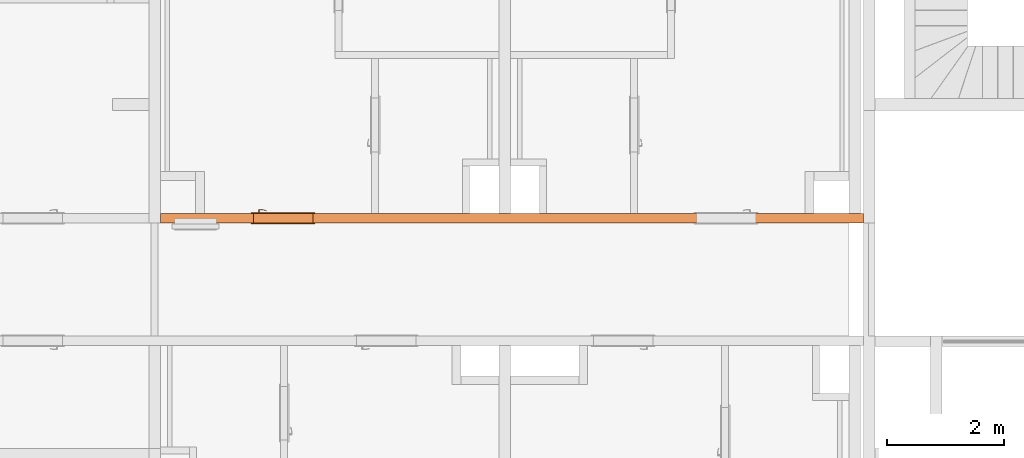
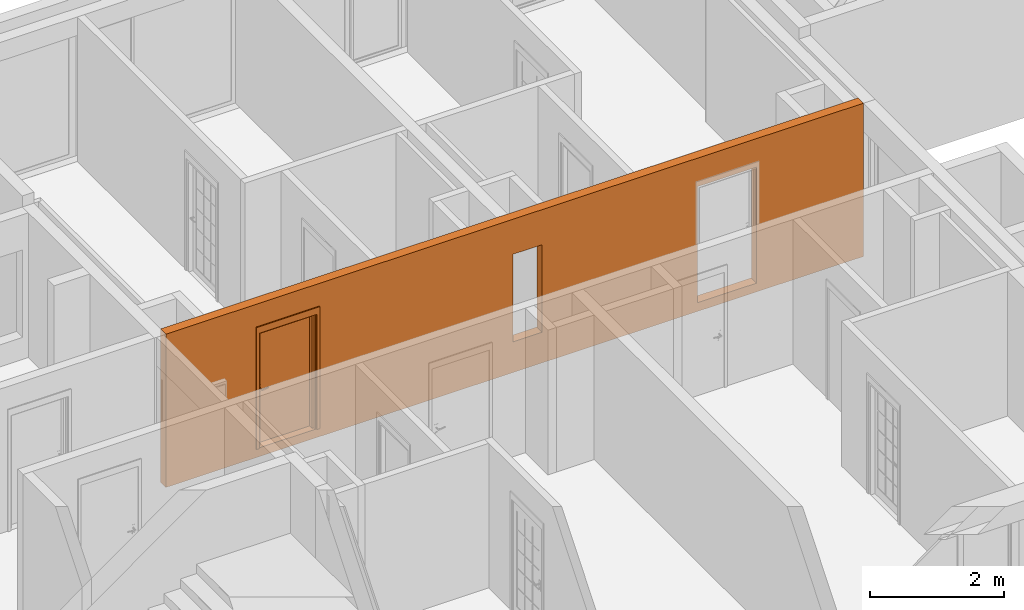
# One storey, part 26 of 61: 2 proxies, 3 openings.
"""IFC2X3 building model written with IfcOpenShell, lengths in millimetres."""

from ifc_helpers import new_model, entity, si_unit, converted_unit, derived_unit, money_unit, direction, frame, origin_with_axes, origin_2d_with_axis, place, context, subcontext, project, spatial, rectangle, extrude, open_shell, faceted_brep, surface_model, source, transform, mapped, material, type_object, element, fill, save


model = new_model("IFC2X3")

# Units and contexts
model_context = context("Model", 3, precision=0.01, world=origin_with_axes(), true_north=direction((0.34421633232, 0.938890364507)))
body_context = subcontext(model_context, "Body", "Model", "MODEL_VIEW")
ifc_project = project(units=[si_unit("LENGTHUNIT", "METRE", prefix="MILLI"), si_unit("AREAUNIT", "SQUARE_METRE"), si_unit("VOLUMEUNIT", "CUBIC_METRE"), converted_unit("PLANEANGLEUNIT", "DEGREE", entity("IfcPlaneAngleMeasure", 0.0174532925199), si_unit("PLANEANGLEUNIT", "RADIAN"), dimensions=[0, 0, 0, 0, 0, 0, 0]), si_unit("SOLIDANGLEUNIT", "STERADIAN"), money_unit("USD"), converted_unit("TIMEUNIT", "Year", entity("IfcTimeMeasure", 31556926.0), si_unit("TIMEUNIT", "SECOND"), dimensions=[0, 0, 1, 0, 0, 0, 0]), si_unit("MASSUNIT", "GRAM", prefix="KILO"), si_unit("THERMODYNAMICTEMPERATUREUNIT", "DEGREE_CELSIUS"), si_unit("LUMINOUSINTENSITYUNIT", "LUMEN"), si_unit("ENERGYUNIT", "JOULE", prefix="MEGA"), derived_unit("THERMALCONDUCTANCEUNIT", [(si_unit("POWERUNIT", "WATT"), 1), (si_unit("LENGTHUNIT", "METRE"), -1), (si_unit("THERMODYNAMICTEMPERATUREUNIT", "KELVIN"), -1)]), derived_unit("SPECIFICHEATCAPACITYUNIT", [(si_unit("ENERGYUNIT", "JOULE"), 1), (si_unit("MASSUNIT", "GRAM", prefix="KILO"), -1), (si_unit("THERMODYNAMICTEMPERATUREUNIT", "KELVIN"), -1)]), derived_unit("MASSDENSITYUNIT", [(si_unit("MASSUNIT", "GRAM", prefix="KILO"), 1), (si_unit("VOLUMEUNIT", "CUBIC_METRE"), -1)])], contexts=[model_context])

# Site, building, storey
site_placement = place(None, origin_with_axes())
site = spatial("IfcSite", under=ifc_project, at=site_placement, Name="USTRONIE MORSKIE", CompositionType="ELEMENT")
building_placement = place(site_placement, origin_with_axes())
building = spatial("IfcBuilding", under=site, at=building_placement, Name="Budynek", CompositionType="ELEMENT")
storey_placement = place(building_placement, frame((0.0, 0.0, 13000.0), z_axis=(0.0, 0.0, 1.0), x_axis=(1.0, 0.0, 0.0)))
storey = spatial("IfcBuildingStorey", under=building, at=storey_placement, Name="PIĘTRO 4", CompositionType="ELEMENT", Elevation=13000.0)

# Proxies, openings
ifc_material = material(Name="Beton konstrukcyjny B25")
building_element_proxy_type_1 = type_object("IfcBuildingElementProxyType", Name="Beton konstrukcyjny B25 160", PredefinedType="NOTDEFINED")
proxy_1_placement = place(storey_placement, frame((408567.920919, 736851.199036, -160.0), z_axis=(0.0, 0.0, 1.0), x_axis=(-1.0, 0.0, 0.0)))
proxy_1 = element("IfcBuildingElementProxy", 1, at=proxy_1_placement, inside=storey, type_object=building_element_proxy_type_1, material=ifc_material, Name="SW-01", context=body_context, shape_type="Brep", body=[
    faceted_brep([(11550.0169798, -79.9998762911, 2800.0), (100.0, -80.0, 2800.0), (100.0, -80.0, 0.0), (12150.0096027, -80.0, 0.0), (12149.9999999, -79.9998762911, 2800.0), (12149.9999999, 80.0, 2800.0), (100.0, 80.0, 2800.0), (100.0, 80.0, 0.0), (12150.0096027, 80.0, 0.0)], [[[0, 1, 2, 3, 4]], [[5, 6, 1, 0, 4]], [[2, 1, 6, 7]], [[2, 7, 8, 3]], [[8, 5, 4, 3]], [[7, 6, 5, 8]]]),
])
opening_1_placement = place(proxy_1_placement, frame((10049.9840947, 0.0, 160.0), z_axis=(0.0, 0.0, 1.0), x_axis=(1.0, 0.0, 0.0)))
opening_1 = element("IfcOpeningElement", 2, at=opening_1_placement, cuts=proxy_1, Name="Dw.1", context=body_context, shape_type="SweptSolid", body=[
    extrude(rectangle(XDim=1020.0, YDim=2120.0, at=origin_2d_with_axis()), frame((0.0, 160.0, 1060.0), z_axis=(0.0, -1.0, 0.0), x_axis=(-1.0, 0.0, 0.0)), (0.0, 0.0, 1.0), 480.0),
    extrude(rectangle(XDim=1094.0, YDim=2227.0, at=origin_2d_with_axis()), frame((0.0, 79.9999999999, 1113.5), z_axis=(0.0, -1.0, 0.0), x_axis=(-1.0, 0.0, 0.0)), (0.0, 0.0, -1.0), 160.0),
    extrude(rectangle(XDim=1094.0, YDim=2227.0, at=origin_2d_with_axis()), frame((0.0, -80.0, 1113.5), z_axis=(0.0, 1.0, 0.0), x_axis=(-1.0, 0.0, 0.0)), (0.0, 0.0, -1.0), 160.0),
])
opening_2_placement = place(proxy_1_placement, frame((2455.01590535, 0.0, 160.0), z_axis=(0.0, 0.0, 1.0), x_axis=(1.0, 0.0, 0.0)))
element("IfcOpeningElement", 3, at=opening_2_placement, cuts=proxy_1, Name="Dw.1", context=body_context, shape_type="SweptSolid", body=[
    extrude(rectangle(XDim=1020.0, YDim=2120.0, at=origin_2d_with_axis()), frame((0.0, 160.0, 1060.0), z_axis=(0.0, 1.0, 0.0), x_axis=(1.0, 0.0, 0.0)), (0.0, 0.0, -1.0), 480.0),
    extrude(rectangle(XDim=1094.0, YDim=2227.0, at=origin_2d_with_axis()), frame((0.0, 79.9999999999, 1113.5), z_axis=(0.0, 1.0, 0.0), x_axis=(1.0, 0.0, 0.0)), (0.0, 0.0, 1.0), 160.0),
    extrude(rectangle(XDim=1094.0, YDim=2227.0, at=origin_2d_with_axis()), frame((0.0, -80.0, 1113.5), z_axis=(0.0, -1.0, 0.0), x_axis=(1.0, 0.0, 0.0)), (0.0, 0.0, 1.0), 160.0),
])
opening_3_placement = place(proxy_1_placement, frame((5900.0, 0.0, 560.0), z_axis=(0.0, 0.0, 1.0), x_axis=(1.0, 0.0, 0.0)))
element("IfcOpeningElement", 4, at=opening_3_placement, cuts=proxy_1, Name="R.01", context=body_context, shape_type="SweptSolid", body=[
    extrude(rectangle(XDim=500.0, YDim=1600.0, at=origin_2d_with_axis()), frame((0.0, 79.9999999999, 800.0), z_axis=(0.0, -1.0, 0.0), x_axis=(1.0, 0.0, 0.0)), (0.0, 0.0, -1.0), 160.0),
    extrude(rectangle(XDim=500.0, YDim=1600.0, at=origin_2d_with_axis()), frame((0.0, 79.9999999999, 800.0), z_axis=(0.0, 1.0, 0.0), x_axis=(1.0, 0.0, 0.0)), (0.0, 0.0, -1.0), 160.0),
])
building_element_proxy_type_2 = type_object("IfcBuildingElementProxyType", Name="Drzwi 23", PredefinedType="NOTDEFINED")
shared_shape = source(origin_with_axes(), body_context, "Body", "SurfaceModel", [
    faceted_brep([(-510.0, -115.0, 0.0), (-485.0, -115.0, 0.0), (-485.0, -160.0, 0.0), (-510.0, -160.0, 0.0), (-510.0, -115.0, 2120.0), (-485.0, -115.0, 2095.0), (-485.0, -160.0, 2095.0), (-510.0, -160.0, 2120.0)], [[[0, 1, 2, 3]], [[0, 4, 5, 1]], [[1, 5, 6, 2]], [[3, 2, 6, 7]], [[4, 0, 3, 7]], [[5, 4, 7, 6]]]),
    faceted_brep([(510.0, -115.0, 2120.0), (485.0, -115.0, 2095.0), (485.0, -160.0, 2095.0), (510.0, -160.0, 2120.0), (510.0, -115.0, 0.0), (485.0, -115.0, 0.0), (485.0, -160.0, 0.0), (510.0, -160.0, 0.0)], [[[0, 1, 2, 3]], [[0, 4, 5, 1]], [[1, 5, 6, 2]], [[3, 2, 6, 7]], [[4, 0, 3, 7]], [[5, 4, 7, 6]]]),
    faceted_brep([(-485.0, -115.0, 2095.0), (485.0, -115.0, 2095.0), (485.0, -160.0, 2095.0), (-485.0, -160.0, 2095.0), (-510.0, -115.0, 2120.0), (510.0, -115.0, 2120.0), (510.0, -160.0, 2120.0), (-510.0, -160.0, 2120.0)], [[[0, 1, 2, 3]], [[0, 4, 5, 1]], [[1, 5, 6, 2]], [[3, 2, 6, 7]], [[4, 0, 3, 7]], [[5, 4, 7, 6]]]),
    faceted_brep([(-547.0, -179.0, 0.0), (-547.0, -160.0, 0.0), (-497.0, -160.0, 0.0), (-497.0, -179.0, 0.0), (-547.0, -179.0, 2227.0), (-547.0, -160.0, 2227.0), (-497.0, -160.0, 2107.0), (-497.0, -179.0, 2107.0)], [[[0, 1, 2, 3]], [[4, 5, 1, 0]], [[1, 5, 6, 2]], [[3, 2, 6, 7]], [[0, 3, 7, 4]], [[7, 6, 5, 4]]]),
    faceted_brep([(547.0, -179.0, 2227.0), (547.0, -160.0, 2227.0), (497.0, -160.0, 2107.0), (497.0, -179.0, 2107.0), (547.0, -179.0, 0.0), (547.0, -160.0, 0.0), (497.0, -160.0, 0.0), (497.0, -179.0, 0.0)], [[[0, 1, 2, 3]], [[4, 5, 1, 0]], [[1, 5, 6, 2]], [[3, 2, 6, 7]], [[0, 3, 7, 4]], [[7, 6, 5, 4]]]),
    faceted_brep([(-547.0, -179.0, 2227.0), (-547.0, -160.0, 2227.0), (-497.0, -160.0, 2107.0), (-497.0, -179.0, 2107.0), (547.0, -179.0, 2227.0), (547.0, -160.0, 2227.0), (497.0, -160.0, 2107.0), (497.0, -179.0, 2107.0)], [[[0, 1, 2, 3]], [[4, 5, 1, 0]], [[1, 5, 6, 2]], [[3, 2, 6, 7]], [[0, 3, 7, 4]], [[7, 6, 5, 4]]]),
    faceted_brep([(-547.0, 19.0, 0.0), (-497.0, 19.0, 0.0), (-497.0, 0.0, 0.0), (-547.0, 0.0, 0.0), (-547.0, 19.0, 2227.0), (-497.0, 19.0, 2107.0), (-497.0, 0.0, 2107.0), (-547.0, 0.0, 2227.0)], [[[0, 1, 2, 3]], [[0, 4, 5, 1]], [[1, 5, 6, 2]], [[3, 2, 6, 7]], [[4, 0, 3, 7]], [[5, 4, 7, 6]]]),
    faceted_brep([(547.0, 19.0, 2227.0), (497.0, 19.0, 2107.0), (497.0, 0.0, 2107.0), (547.0, 0.0, 2227.0), (547.0, 19.0, 0.0), (497.0, 19.0, 0.0), (497.0, 0.0, 0.0), (547.0, 0.0, 0.0)], [[[0, 1, 2, 3]], [[0, 4, 5, 1]], [[1, 5, 6, 2]], [[3, 2, 6, 7]], [[4, 0, 3, 7]], [[5, 4, 7, 6]]]),
    faceted_brep([(-547.0, 19.0, 2227.0), (-497.0, 19.0, 2107.0), (-497.0, 0.0, 2107.0), (-547.0, 0.0, 2227.0), (547.0, 19.0, 2227.0), (497.0, 19.0, 2107.0), (497.0, 0.0, 2107.0), (547.0, 0.0, 2227.0)], [[[0, 1, 2, 3]], [[0, 4, 5, 1]], [[1, 5, 6, 2]], [[3, 2, 6, 7]], [[4, 0, 3, 7]], [[5, 4, 7, 6]]]),
    faceted_brep([(-450.0, -40.0, 0.0), (-450.0, -40.0, 2050.0), (-450.0, -115.0, 2050.0), (-450.0, -115.0, 0.0), (-462.0, -40.0, 2050.0), (-462.0, -40.0, 0.0), (-462.0, 0.0, 2050.0), (-510.0, 0.0, 2050.0), (-510.0, -115.0, 2050.0), (-510.0, -115.0, 0.0), (-510.0, 0.0, 0.0), (-462.0, 0.0, 0.0)], [[[0, 1, 2, 3]], [[4, 1, 0, 5]], [[4, 6, 7, 8, 2, 1]], [[3, 2, 8, 9]], [[5, 0, 3, 9, 10, 11]], [[6, 4, 5, 11]], [[6, 11, 10, 7]], [[10, 9, 8, 7]]]),
    faceted_brep([(462.0, -40.0, 2050.0), (450.0, -40.0, 2050.0), (450.0, -115.0, 2050.0), (510.0, -115.0, 2050.0), (510.0, 0.0, 2050.0), (462.0, 0.0, 2050.0), (462.0, -40.0, 0.0), (450.0, -40.0, 0.0), (450.0, -115.0, 0.0), (510.0, -115.0, 0.0), (510.0, 0.0, 0.0), (462.0, 0.0, 0.0)], [[[0, 1, 2, 3, 4, 5]], [[1, 0, 6, 7]], [[1, 7, 8, 2]], [[3, 2, 8, 9]], [[4, 3, 9, 10]], [[11, 5, 4, 10]], [[0, 5, 11, 6]], [[6, 11, 10, 9, 8, 7]]]),
    faceted_brep([(-462.0, 0.0, 2062.0), (-462.0, 0.0, 2050.0), (-510.0, 0.0, 2050.0), (-510.0, 0.0, 2120.0), (510.0, 0.0, 2120.0), (510.0, 0.0, 2050.0), (462.0, 0.0, 2050.0), (462.0, 0.0, 2062.0), (-462.0, -40.0, 2062.0), (-462.0, -40.0, 2050.0), (-450.0, -40.0, 2050.0), (-450.0, -115.0, 2050.0), (-510.0, -115.0, 2050.0), (-510.0, -115.0, 2120.0), (510.0, -115.0, 2120.0), (510.0, -115.0, 2050.0), (462.0, -40.0, 2050.0), (450.0, -115.0, 2050.0), (450.0, -40.0, 2050.0), (462.0, -40.0, 2062.0)], [[[0, 1, 2, 3, 4, 5, 6, 7]], [[1, 0, 8, 9]], [[9, 10, 11, 12, 2, 1]], [[2, 12, 13, 3]], [[3, 13, 14, 4]], [[4, 14, 15, 5]], [[16, 6, 5, 15, 17, 18]], [[7, 6, 16, 19]], [[0, 7, 19, 8]], [[16, 18, 10, 9, 8, 19]], [[10, 18, 17, 11]], [[17, 15, 14, 13, 12, 11]]]),
    faceted_brep([(-440.5, -40.0, 1060.0), (-440.5, -43.0, 1060.0), (-383.5, -43.0, 1060.0), (-383.5, -40.0, 1060.0), (-440.5, -40.0, 870.0), (-440.5, -43.0, 870.0), (-383.5, -43.0, 870.0), (-383.5, -40.0, 870.0)], [[[0, 1, 2, 3]], [[4, 5, 1, 0]], [[1, 5, 6, 2]], [[3, 2, 6, 7]], [[0, 3, 7, 4]], [[7, 6, 5, 4]]]),
    faceted_brep([(-412.0, -104.0, 990.0), (-412.0, -111.0, 990.0), (-417.0, -111.0, 991.339745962), (-417.0, -104.0, 991.339745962), (-387.0, -104.0, 990.0), (-387.0, -111.0, 990.0), (-387.0, -111.0, 1010.0), (-412.0, -111.0, 1010.0), (-417.0, -111.0, 1008.66025404), (-420.660254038, -111.0, 1005.0), (-422.0, -111.0, 1000.0), (-420.660254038, -111.0, 995.0), (-420.660254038, -104.0, 995.0), (-422.0, -104.0, 1000.0), (-420.660254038, -104.0, 1005.0), (-417.0, -104.0, 1008.66025404), (-412.0, -104.0, 1010.0), (-387.0, -104.0, 1010.0)], [[[0, 1, 2, 3]], [[4, 5, 1, 0]], [[1, 5, 6, 7, 8, 9, 10, 11, 2]], [[3, 2, 11, 12]], [[0, 3, 12, 13, 14, 15, 16, 17, 4]], [[17, 6, 5, 4]], [[16, 7, 6, 17]], [[15, 8, 7, 16]], [[14, 9, 8, 15]], [[13, 10, 9, 14]], [[12, 11, 10, 13]]]),
    surface_model("IfcShellBasedSurfaceModel", [(-387.0, -104.0, 1010.0), (-373.596090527, -111.0, 1009.60730092), (-373.901717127, -104.0, 1009.60730092), (-387.0, -111.0, 1010.0), (-346.890283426, -108.663544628, 1008.82190275), (-373.901717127, -104.0, 990.392699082), (-387.0, -104.0, 990.0), (-387.0, -111.0, 990.0), (-373.596090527, -111.0, 990.392699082), (-346.890283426, -108.663544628, 991.178097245), (-347.804837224, -101.716818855, 1008.82190275), (-347.804837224, -101.716818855, 991.178097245), (-320.489735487, -104.008415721, 991.963495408), (-320.489735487, -104.008415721, 1008.03650459), (-322.006256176, -97.1678329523, 1008.03650459), (-322.006256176, -97.1678329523, 991.963495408), (-294.59537082, -97.0700416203, 992.748893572), (-294.59537082, -97.0700416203, 1007.25110643), (-296.702316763, -90.3876628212, 1007.25110643), (-296.702316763, -90.3876628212, 992.748893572), (-286.538795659, -94.1376880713, 993.0), (-286.538795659, -94.1376880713, 1007.0), (-288.829442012, -87.5221707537, 1007.0), (-288.829442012, -87.5221707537, 993.0)], [open_shell([[[0, 1, 2]], [[0, 3, 1]], [[2, 1, 4]], [[0, 2, 5, 6]], [[3, 7, 8, 1]], [[1, 8, 9, 4]], [[2, 4, 10]], [[2, 10, 11, 5]], [[5, 7, 6]], [[5, 8, 7]], [[11, 9, 8]], [[4, 9, 12, 13]], [[10, 4, 13]], [[10, 14, 15, 11]], [[11, 8, 5]], [[15, 9, 11]], [[15, 12, 9]], [[13, 12, 16, 17]], [[10, 13, 14]], [[14, 18, 19, 15]], [[19, 12, 15]], [[19, 16, 12]], [[17, 16, 20, 21]], [[14, 13, 17]], [[14, 17, 18]], [[18, 22, 23, 19]], [[23, 16, 19]], [[23, 20, 16]], [[22, 21, 20, 23]], [[18, 17, 21]], [[18, 21, 22]]])]),
    faceted_brep([(-401.607695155, -53.0, 994.0), (-400.741669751, -43.0, 993.5), (-399.0, -43.0, 1000.0), (-400.0, -53.0, 1000.0), (-406.0, -53.0, 989.607695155), (-405.5, -43.0, 988.741669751), (-412.0, -43.0, 987.0), (-418.5, -43.0, 988.741669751), (-423.258330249, -43.0, 993.5), (-425.0, -43.0, 1000.0), (-423.258330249, -43.0, 1006.5), (-418.5, -43.0, 1011.25833025), (-412.0, -43.0, 1013.0), (-405.5, -43.0, 1011.25833025), (-400.741669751, -43.0, 1006.5), (-401.607695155, -53.0, 1006.0), (-406.0, -53.0, 1010.39230485), (-412.0, -53.0, 1012.0), (-418.0, -53.0, 1010.39230485), (-422.392304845, -53.0, 1006.0), (-424.0, -53.0, 1000.0), (-422.392304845, -53.0, 994.0), (-418.0, -53.0, 989.607695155), (-412.0, -53.0, 988.0)], [[[0, 1, 2, 3]], [[4, 5, 1, 0]], [[2, 1, 5, 6, 7, 8, 9, 10, 11, 12, 13, 14]], [[3, 2, 14, 15]], [[3, 15, 16, 17, 18, 19, 20, 21, 22, 23, 4, 0]], [[23, 6, 5, 4]], [[22, 7, 6, 23]], [[21, 8, 7, 22]], [[20, 9, 8, 21]], [[19, 10, 9, 20]], [[18, 11, 10, 19]], [[17, 12, 11, 18]], [[16, 13, 12, 17]], [[15, 14, 13, 16]]]),
    faceted_brep([(-394.679491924, -47.0, 895.0), (-392.947441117, -43.0, 894.0), (-390.0, -43.0, 905.0), (-392.0, -47.0, 905.0), (-402.0, -47.0, 887.679491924), (-401.0, -43.0, 885.947441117), (-412.0, -43.0, 883.0), (-423.0, -43.0, 885.947441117), (-431.052558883, -43.0, 894.0), (-434.0, -43.0, 905.0), (-431.052558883, -43.0, 916.0), (-423.0, -43.0, 924.052558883), (-412.0, -43.0, 927.0), (-401.0, -43.0, 924.052558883), (-392.947441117, -43.0, 916.0), (-394.679491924, -47.0, 915.0), (-402.0, -47.0, 922.320508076), (-412.0, -47.0, 925.0), (-422.0, -47.0, 922.320508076), (-429.320508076, -47.0, 915.0), (-432.0, -47.0, 905.0), (-429.320508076, -47.0, 895.0), (-422.0, -47.0, 887.679491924), (-412.0, -47.0, 885.0)], [[[0, 1, 2, 3]], [[4, 5, 1, 0]], [[2, 1, 5, 6, 7, 8, 9, 10, 11, 12, 13, 14]], [[3, 2, 14, 15]], [[3, 15, 16, 17, 18, 19, 20, 21, 22, 23, 4, 0]], [[23, 6, 5, 4]], [[22, 7, 6, 23]], [[21, 8, 7, 22]], [[20, 9, 8, 21]], [[19, 10, 9, 20]], [[18, 11, 10, 19]], [[17, 12, 11, 18]], [[16, 13, 12, 17]], [[15, 14, 13, 16]]]),
    faceted_brep([(-407.050252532, -49.0, 909.050252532), (-406.343145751, -47.0, 908.343145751), (-404.0, -47.0, 914.0), (-405.0, -49.0, 914.0), (-412.0, -49.0, 907.0), (-412.0, -47.0, 906.0), (-417.656854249, -47.0, 908.343145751), (-420.0, -47.0, 914.0), (-417.656854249, -47.0, 919.656854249), (-412.0, -47.0, 922.0), (-406.343145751, -47.0, 919.656854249), (-407.050252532, -49.0, 918.949747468), (-412.0, -49.0, 921.0), (-416.949747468, -49.0, 918.949747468), (-419.0, -49.0, 914.0), (-416.949747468, -49.0, 909.050252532)], [[[0, 1, 2, 3]], [[4, 5, 1, 0]], [[2, 1, 5, 6, 7, 8, 9, 10]], [[3, 2, 10, 11]], [[3, 11, 12, 13, 14, 15, 4, 0]], [[15, 6, 5, 4]], [[14, 7, 6, 15]], [[13, 8, 7, 14]], [[12, 9, 8, 13]], [[11, 10, 9, 12]]]),
    faceted_brep([(-412.0, -53.0, 1010.0), (-412.0, -104.0, 1010.0), (-407.0, -104.0, 1008.66025404), (-407.0, -53.0, 1008.66025404), (-417.0, -53.0, 1008.66025404), (-417.0, -104.0, 1008.66025404), (-420.660254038, -104.0, 1005.0), (-422.0, -104.0, 1000.0), (-420.660254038, -104.0, 995.0), (-417.0, -104.0, 991.339745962), (-412.0, -104.0, 990.0), (-407.0, -104.0, 991.339745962), (-403.339745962, -104.0, 995.0), (-402.0, -104.0, 1000.0), (-403.339745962, -104.0, 1005.0), (-403.339745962, -53.0, 1005.0), (-402.0, -53.0, 1000.0), (-403.339745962, -53.0, 995.0), (-407.0, -53.0, 991.339745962), (-412.0, -53.0, 990.0), (-417.0, -53.0, 991.339745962), (-420.660254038, -53.0, 995.0), (-422.0, -53.0, 1000.0), (-420.660254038, -53.0, 1005.0)], [[[0, 1, 2, 3]], [[4, 5, 1, 0]], [[1, 5, 6, 7, 8, 9, 10, 11, 12, 13, 14, 2]], [[3, 2, 14, 15]], [[0, 3, 15, 16, 17, 18, 19, 20, 21, 22, 23, 4]], [[23, 6, 5, 4]], [[22, 7, 6, 23]], [[21, 8, 7, 22]], [[20, 9, 8, 21]], [[19, 10, 9, 20]], [[18, 11, 10, 19]], [[17, 12, 11, 18]], [[16, 13, 12, 17]], [[15, 14, 13, 16]]]),
    faceted_brep([(-440.5, 0.0, 1060.0), (-383.5, 0.0, 1060.0), (-383.5, 3.0, 1060.0), (-440.5, 3.0, 1060.0), (-440.5, 0.0, 870.0), (-383.5, 0.0, 870.0), (-383.5, 3.0, 870.0), (-440.5, 3.0, 870.0)], [[[0, 1, 2, 3]], [[0, 4, 5, 1]], [[1, 5, 6, 2]], [[3, 2, 6, 7]], [[4, 0, 3, 7]], [[5, 4, 7, 6]]]),
    faceted_brep([(-412.0, 64.0, 990.0), (-417.0, 64.0, 991.339745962), (-417.0, 71.0, 991.339745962), (-412.0, 71.0, 990.0), (-387.0, 64.0, 990.0), (-387.0, 64.0, 1010.0), (-412.0, 64.0, 1010.0), (-417.0, 64.0, 1008.66025404), (-420.660254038, 64.0, 1005.0), (-422.0, 64.0, 1000.0), (-420.660254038, 64.0, 995.0), (-420.660254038, 71.0, 995.0), (-422.0, 71.0, 1000.0), (-420.660254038, 71.0, 1005.0), (-417.0, 71.0, 1008.66025404), (-412.0, 71.0, 1010.0), (-387.0, 71.0, 1010.0), (-387.0, 71.0, 990.0)], [[[0, 1, 2, 3]], [[0, 4, 5, 6, 7, 8, 9, 10, 1]], [[1, 10, 11, 2]], [[3, 2, 11, 12, 13, 14, 15, 16, 17]], [[4, 0, 3, 17]], [[5, 4, 17, 16]], [[6, 5, 16, 15]], [[7, 6, 15, 14]], [[8, 7, 14, 13]], [[9, 8, 13, 12]], [[10, 9, 12, 11]]]),
    surface_model("IfcShellBasedSurfaceModel", [(-387.0, 64.0, 1010.0), (-373.901717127, 64.0, 1009.60730092), (-373.596090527, 71.0, 1009.60730092), (-387.0, 64.0, 990.0), (-373.901717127, 64.0, 990.392699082), (-346.890283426, 68.6635446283, 1008.82190275), (-387.0, 71.0, 1010.0), (-387.0, 71.0, 990.0), (-347.804837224, 61.716818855, 991.178097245), (-347.804837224, 61.716818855, 1008.82190275), (-346.890283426, 68.6635446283, 991.178097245), (-373.596090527, 71.0, 990.392699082), (-322.006256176, 57.1678329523, 991.963495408), (-322.006256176, 57.1678329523, 1008.03650459), (-320.489735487, 64.0084157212, 1008.03650459), (-320.489735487, 64.0084157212, 991.963495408), (-296.702316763, 50.3876628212, 992.748893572), (-296.702316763, 50.3876628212, 1007.25110643), (-294.59537082, 57.0700416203, 1007.25110643), (-294.59537082, 57.0700416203, 992.748893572), (-288.829442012, 47.5221707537, 993.0), (-288.829442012, 47.5221707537, 1007.0), (-286.538795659, 54.1376880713, 1007.0), (-286.538795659, 54.1376880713, 993.0)], [open_shell([[[0, 1, 2]], [[0, 3, 4, 1]], [[1, 5, 2]], [[0, 2, 6]], [[4, 3, 7]], [[1, 4, 8, 9]], [[1, 9, 5]], [[2, 5, 10, 11]], [[6, 2, 11, 7]], [[4, 7, 11]], [[8, 4, 11]], [[9, 8, 12, 13]], [[9, 14, 5]], [[5, 14, 15, 10]], [[8, 11, 10]], [[12, 8, 10]], [[13, 12, 16, 17]], [[9, 13, 14]], [[14, 18, 19, 15]], [[12, 10, 15]], [[16, 12, 15]], [[17, 16, 20, 21]], [[13, 17, 18]], [[13, 18, 14]], [[18, 22, 23, 19]], [[16, 15, 19]], [[20, 16, 19]], [[21, 20, 23, 22]], [[17, 21, 22]], [[17, 22, 18]], [[20, 19, 23]]])]),
    faceted_brep([(-401.607695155, 13.0, 994.0), (-400.0, 13.0, 1000.0), (-399.0, 3.0, 1000.0), (-400.741669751, 3.0, 993.5), (-406.0, 13.0, 989.607695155), (-412.0, 13.0, 988.0), (-418.0, 13.0, 989.607695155), (-422.392304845, 13.0, 994.0), (-424.0, 13.0, 1000.0), (-422.392304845, 13.0, 1006.0), (-418.0, 13.0, 1010.39230485), (-412.0, 13.0, 1012.0), (-406.0, 13.0, 1010.39230485), (-401.607695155, 13.0, 1006.0), (-400.741669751, 3.0, 1006.5), (-405.5, 3.0, 1011.25833025), (-412.0, 3.0, 1013.0), (-418.5, 3.0, 1011.25833025), (-423.258330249, 3.0, 1006.5), (-425.0, 3.0, 1000.0), (-423.258330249, 3.0, 993.5), (-418.5, 3.0, 988.741669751), (-412.0, 3.0, 987.0), (-405.5, 3.0, 988.741669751)], [[[0, 1, 2, 3]], [[1, 0, 4, 5, 6, 7, 8, 9, 10, 11, 12, 13]], [[1, 13, 14, 2]], [[2, 14, 15, 16, 17, 18, 19, 20, 21, 22, 23, 3]], [[4, 0, 3, 23]], [[5, 4, 23, 22]], [[6, 5, 22, 21]], [[7, 6, 21, 20]], [[8, 7, 20, 19]], [[9, 8, 19, 18]], [[10, 9, 18, 17]], [[11, 10, 17, 16]], [[12, 11, 16, 15]], [[13, 12, 15, 14]]]),
    faceted_brep([(-394.679491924, 7.0, 895.0), (-392.0, 7.0, 905.0), (-390.0, 3.0, 905.0), (-392.947441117, 3.0, 894.0), (-402.0, 7.0, 887.679491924), (-412.0, 7.0, 885.0), (-422.0, 7.0, 887.679491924), (-429.320508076, 7.0, 895.0), (-432.0, 7.0, 905.0), (-429.320508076, 7.0, 915.0), (-422.0, 7.0, 922.320508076), (-412.0, 7.0, 925.0), (-402.0, 7.0, 922.320508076), (-394.679491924, 7.0, 915.0), (-392.947441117, 3.0, 916.0), (-401.0, 3.0, 924.052558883), (-412.0, 3.0, 927.0), (-423.0, 3.0, 924.052558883), (-431.052558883, 3.0, 916.0), (-434.0, 3.0, 905.0), (-431.052558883, 3.0, 894.0), (-423.0, 3.0, 885.947441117), (-412.0, 3.0, 883.0), (-401.0, 3.0, 885.947441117)], [[[0, 1, 2, 3]], [[1, 0, 4, 5, 6, 7, 8, 9, 10, 11, 12, 13]], [[1, 13, 14, 2]], [[2, 14, 15, 16, 17, 18, 19, 20, 21, 22, 23, 3]], [[4, 0, 3, 23]], [[5, 4, 23, 22]], [[6, 5, 22, 21]], [[7, 6, 21, 20]], [[8, 7, 20, 19]], [[9, 8, 19, 18]], [[10, 9, 18, 17]], [[11, 10, 17, 16]], [[12, 11, 16, 15]], [[13, 12, 15, 14]]]),
    faceted_brep([(-407.050252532, 9.0, 909.050252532), (-405.0, 9.0, 914.0), (-404.0, 7.0, 914.0), (-406.343145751, 7.0, 908.343145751), (-412.0, 9.0, 907.0), (-416.949747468, 9.0, 909.050252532), (-419.0, 9.0, 914.0), (-416.949747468, 9.0, 918.949747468), (-412.0, 9.0, 921.0), (-407.050252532, 9.0, 918.949747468), (-406.343145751, 7.0, 919.656854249), (-412.0, 7.0, 922.0), (-417.656854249, 7.0, 919.656854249), (-420.0, 7.0, 914.0), (-417.656854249, 7.0, 908.343145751), (-412.0, 7.0, 906.0)], [[[0, 1, 2, 3]], [[1, 0, 4, 5, 6, 7, 8, 9]], [[1, 9, 10, 2]], [[2, 10, 11, 12, 13, 14, 15, 3]], [[4, 0, 3, 15]], [[5, 4, 15, 14]], [[6, 5, 14, 13]], [[7, 6, 13, 12]], [[8, 7, 12, 11]], [[9, 8, 11, 10]]]),
    faceted_brep([(-412.0, 13.0, 1010.0), (-407.0, 13.0, 1008.66025404), (-407.0, 64.0, 1008.66025404), (-412.0, 64.0, 1010.0), (-417.0, 13.0, 1008.66025404), (-420.660254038, 13.0, 1005.0), (-422.0, 13.0, 1000.0), (-420.660254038, 13.0, 995.0), (-417.0, 13.0, 991.339745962), (-412.0, 13.0, 990.0), (-407.0, 13.0, 991.339745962), (-403.339745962, 13.0, 995.0), (-402.0, 13.0, 1000.0), (-403.339745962, 13.0, 1005.0), (-403.339745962, 64.0, 1005.0), (-402.0, 64.0, 1000.0), (-403.339745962, 64.0, 995.0), (-407.0, 64.0, 991.339745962), (-412.0, 64.0, 990.0), (-417.0, 64.0, 991.339745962), (-420.660254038, 64.0, 995.0), (-422.0, 64.0, 1000.0), (-420.660254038, 64.0, 1005.0), (-417.0, 64.0, 1008.66025404)], [[[0, 1, 2, 3]], [[0, 4, 5, 6, 7, 8, 9, 10, 11, 12, 13, 1]], [[1, 13, 14, 2]], [[3, 2, 14, 15, 16, 17, 18, 19, 20, 21, 22, 23]], [[4, 0, 3, 23]], [[5, 4, 23, 22]], [[6, 5, 22, 21]], [[7, 6, 21, 20]], [[8, 7, 20, 19]], [[9, 8, 19, 18]], [[10, 9, 18, 17]], [[11, 10, 17, 16]], [[12, 11, 16, 15]], [[13, 12, 15, 14]]]),
    faceted_brep([(462.0, 0.0, 0.0), (462.0, -40.0, 0.0), (-462.0, -40.0, 0.0), (-462.0, 0.0, 0.0), (462.0, 0.0, 2062.0), (462.0, -40.0, 2062.0), (-462.0, -40.0, 2062.0), (-462.0, 0.0, 2062.0)], [[[0, 1, 2, 3]], [[4, 5, 1, 0]], [[1, 5, 6, 2]], [[3, 2, 6, 7]], [[0, 3, 7, 4]], [[7, 6, 5, 4]]]),
])
proxy_2_placement = place(opening_1_placement, frame((450.0, 0.0, 0.0), z_axis=(0.0, 0.0, 1.0), x_axis=(-1.0, 0.0, 0.0)))
proxy_2 = element("IfcBuildingElementProxy", 5, at=proxy_2_placement, inside=storey, type_object=building_element_proxy_type_2, Name="Dw.1", context=body_context, shape_type="MappedRepresentation", body=[
    mapped(shared_shape, transform((450.0, 80.0, 0.0))),
])
fill(opening_1, proxy_2)

save(model, "model.ifc")
